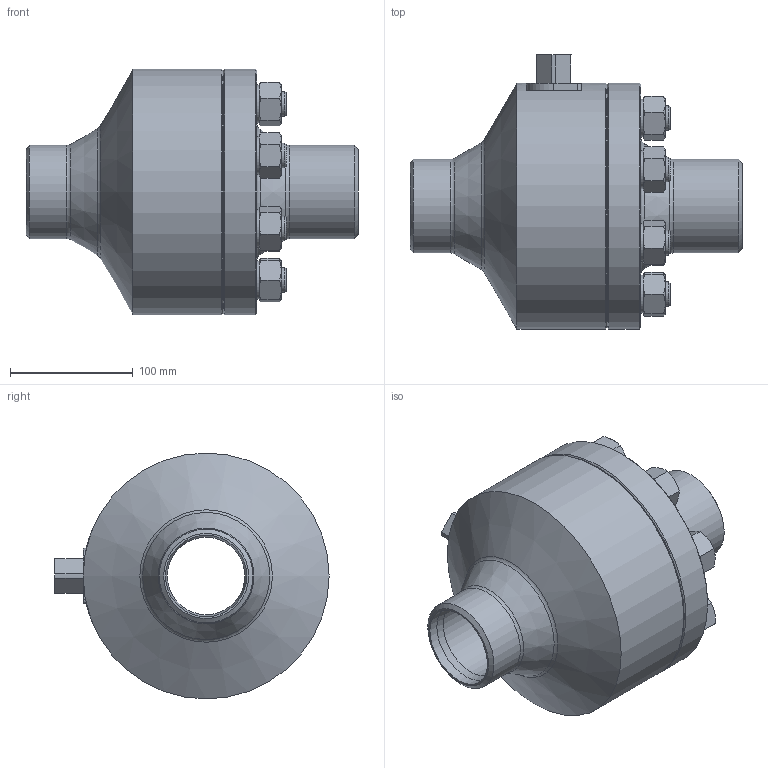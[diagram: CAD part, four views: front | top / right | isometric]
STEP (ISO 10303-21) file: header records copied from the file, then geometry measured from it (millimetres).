
FILE_DESCRIPTION((''),'2;1');
FILE_NAME('C:\Users\Bartek\Desktop\Nowy folder (2)\Nowy folder (22)\WK5b\WK5bc DN65 PN100_Substitute_1.stp','2024-09-17T09:22:47',('Bartek'),(''),'Autodesk Inventor 2012','Autodesk Inventor 2012','');
FILE_SCHEMA(('AUTOMOTIVE_DESIGN { 1 0 10303 214 1 1 1 1 }'));
Length unit declared in the file: millimetre
Products named in the file (1): WK5bc DN65 PN100_Substitute_1
Bounding box: 270 x 223 x 200 mm (x, y, z)
Volume: 3716606.3 mm3; surface area: 264123.7 mm2
Topology: 1 solids, 1 shells, 243 faces, 517 edges, 305 vertices
Faces by surface type: cone 114, plane 93, cylinder 32, torus 4
Full cylindrical faces by diameter (mm): 20 x8, 31 x8, 63 x1, 66.1 x2, 76.1 x2, 130 x1, 200 x2
Entity records: 6217 total; most frequent: CARTESIAN_POINT 1388, DIRECTION 944, ORIENTED_EDGE 926, EDGE_CURVE 463, AXIS2_PLACEMENT_3D 429, EDGE_LOOP 320, VERTEX_POINT 297, STYLED_ITEM 244
